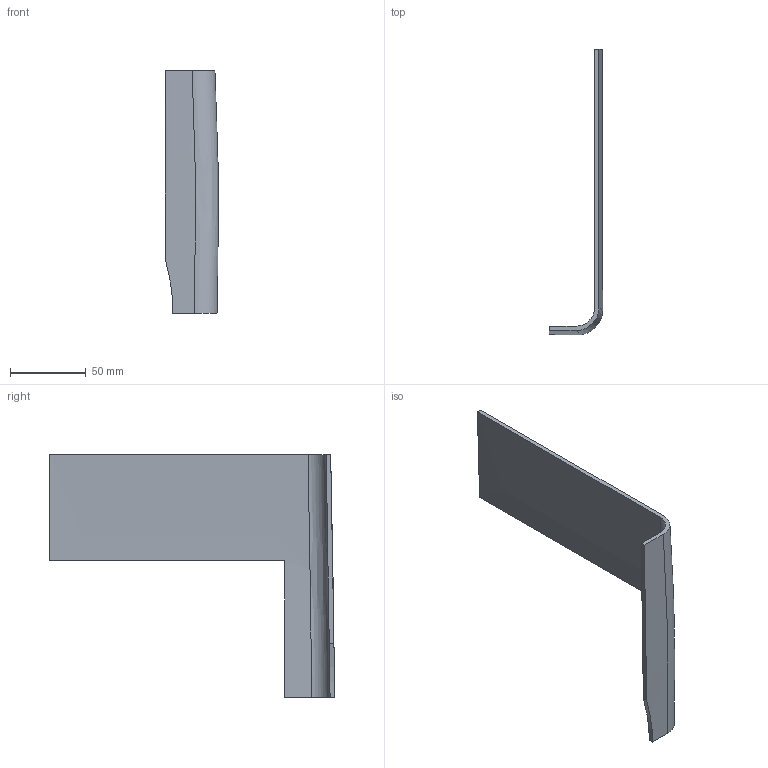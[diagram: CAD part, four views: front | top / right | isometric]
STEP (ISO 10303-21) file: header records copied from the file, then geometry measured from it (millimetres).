
FILE_DESCRIPTION(('Open CASCADE Model'),'2;1');
FILE_NAME('Open CASCADE Shape Model','2026-11-03T04:29:32',('Author'),( 'Open CASCADE'),'Open CASCADE STEP processor 7.8','Open CASCADE 7.8' ,'Unknown');
FILE_SCHEMA(('AUTOMOTIVE_DESIGN { 1 0 10303 214 1 1 1 1 }'));
Length unit declared in the file: millimetre
Products named in the file (1): Open CASCADE STEP translator 7.8 17
Bounding box: 35.08 x 188 x 160 mm (x, y, z)
Volume: 60526.6 mm3; surface area: 42087 mm2
Topology: 1 solids, 1 shells, 13 faces, 33 edges, 22 vertices
Faces by surface type: bspline 6, plane 6, cylinder 1
Entity records: 1766 total; most frequent: CARTESIAN_POINT 1231, B_SPLINE_CURVE_WITH_KNOTS 69, ORIENTED_EDGE 66, PCURVE 66, DEFINITIONAL_REPRESENTATION 66, DIRECTION 46, EDGE_CURVE 33, SURFACE_CURVE 33
